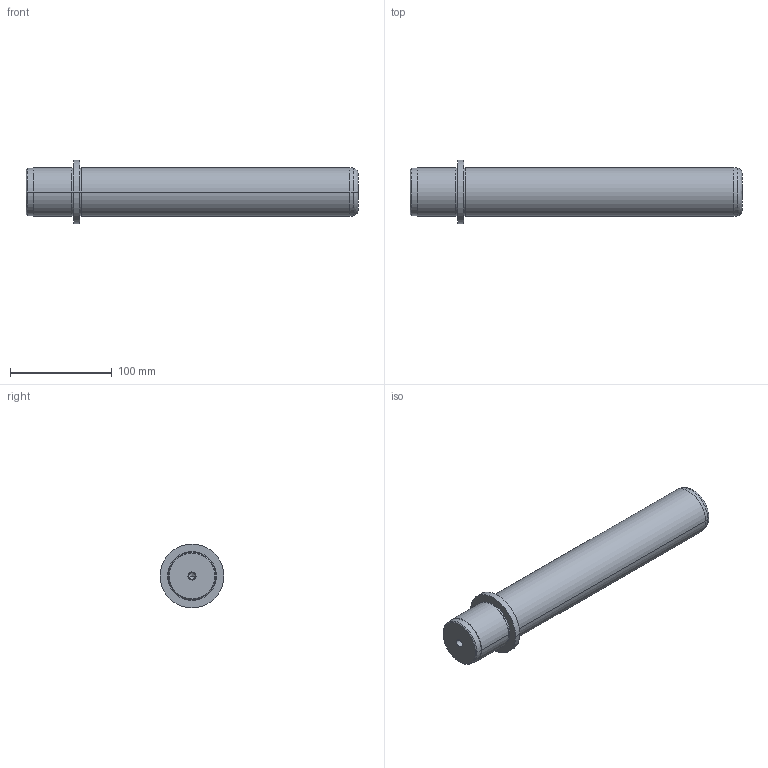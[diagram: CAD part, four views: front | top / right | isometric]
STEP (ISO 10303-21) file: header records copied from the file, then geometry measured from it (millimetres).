
FILE_DESCRIPTION( ( 'STEP AP203' ), '1' );
FILE_NAME( 'D:/Delta 3 D/D00/D00 - 48x280x47.step', '2003-01-02T07:18:41', ( ' ' ), ( ' ' ), 'XStep 1.0', ' ', ' ' );
FILE_SCHEMA( ( 'CONFIG_CONTROL_DESIGN' ) );
Length unit declared in the file: metre
Products named in the file (1): 1
Bounding box: 327 x 63 x 63 mm (x, y, z)
Volume: 595441.6 mm3; surface area: 56769 mm2
Topology: 1 solids, 1 shells, 39 faces, 78 edges, 48 vertices
Faces by surface type: revolution 28, bspline 11
Entity records: 1137 total; most frequent: CARTESIAN_POINT 277, DIRECTION 154, ORIENTED_EDGE 152, EDGE_CURVE 76, AXIS2_PLACEMENT_3D 49, EDGE_LOOP 48, VERTEX_POINT 48, CIRCLE 48
